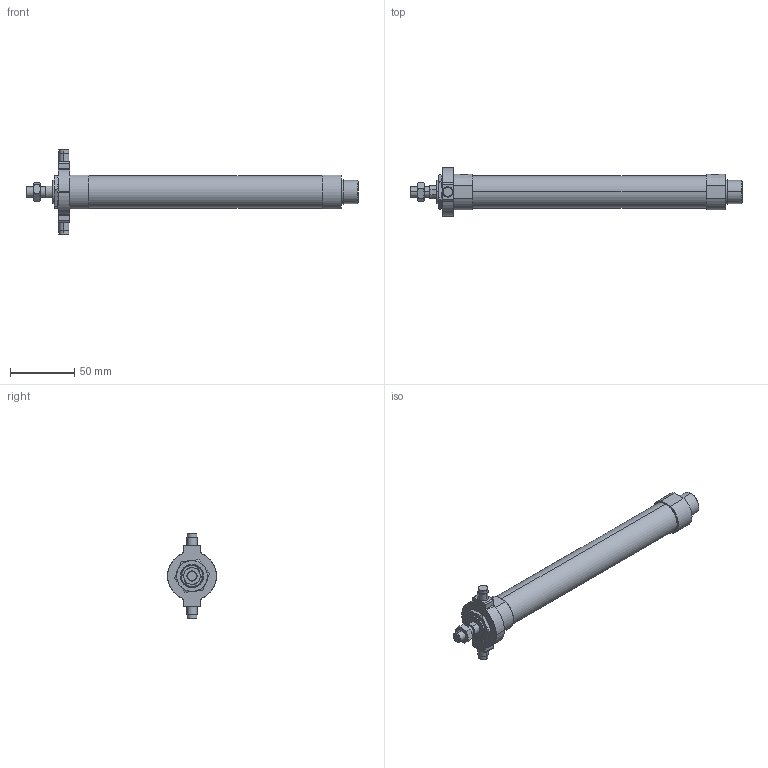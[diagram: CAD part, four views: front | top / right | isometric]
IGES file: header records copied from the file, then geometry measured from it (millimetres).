
Start section: SolidWorks IGES file using analytic representation for surfaces
Global section: file name: C:\Users\Toshiba\Desktop\J#2-20-150-T.IGS; native system: SolidWorks 2014; preprocessor: SolidWorks 2014; author: Toshiba; date: 160308.150725; units: millimetre
Bounding box: 259 x 38 x 66 mm (x, y, z)
Surface area: 26777.7 mm2 (no closed solid volume)
Topology: 0 solids, 0 shells, 131 faces, 2124 edges, 2124 vertices
Faces by surface type: bspline 70, revolution 61
